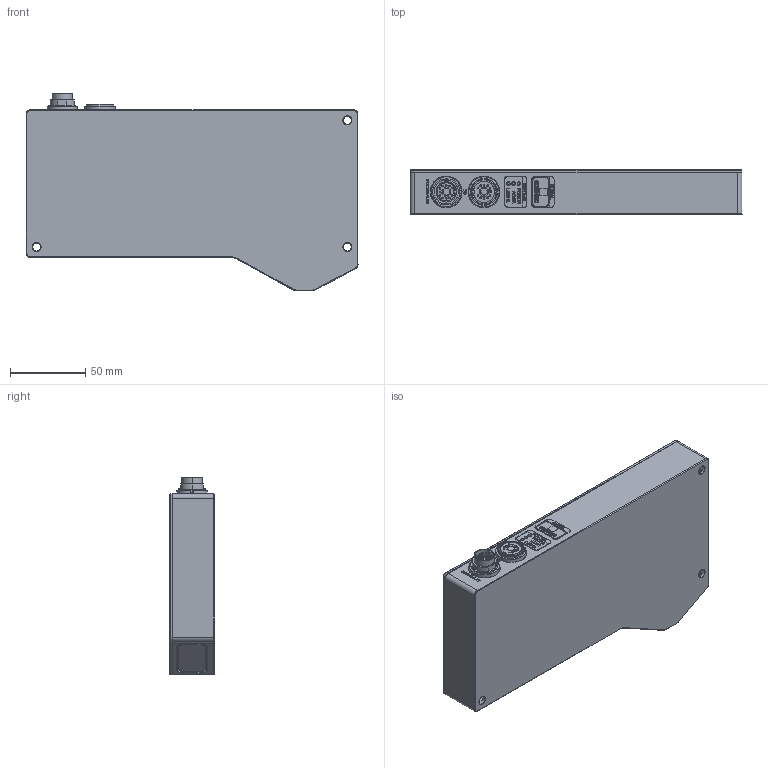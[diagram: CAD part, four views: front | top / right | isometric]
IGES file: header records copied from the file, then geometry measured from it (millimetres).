
Start section: SolidWorks IGES file using analytic representation for surfaces
Global section: file name: C:\_LMI\VAULT\SENSORS\dev\RD\Gocator\Models\1x00\_Base\Documents\Manual Drawings\Gocator 11x0 220mm Sensor 3D Model.IGS; native system: SolidWorks 2012; preprocessor: SolidWorks 2012; author: Jeff; date: 121017.113741; units: millimetre
Bounding box: 220 x 30.11 x 131 mm (x, y, z)
Surface area: 137611.7 mm2 (no closed solid volume)
Topology: 0 solids, 0 shells, 1937 faces, 21452 edges, 21348 vertices
Faces by surface type: bspline 1271, revolution 666
